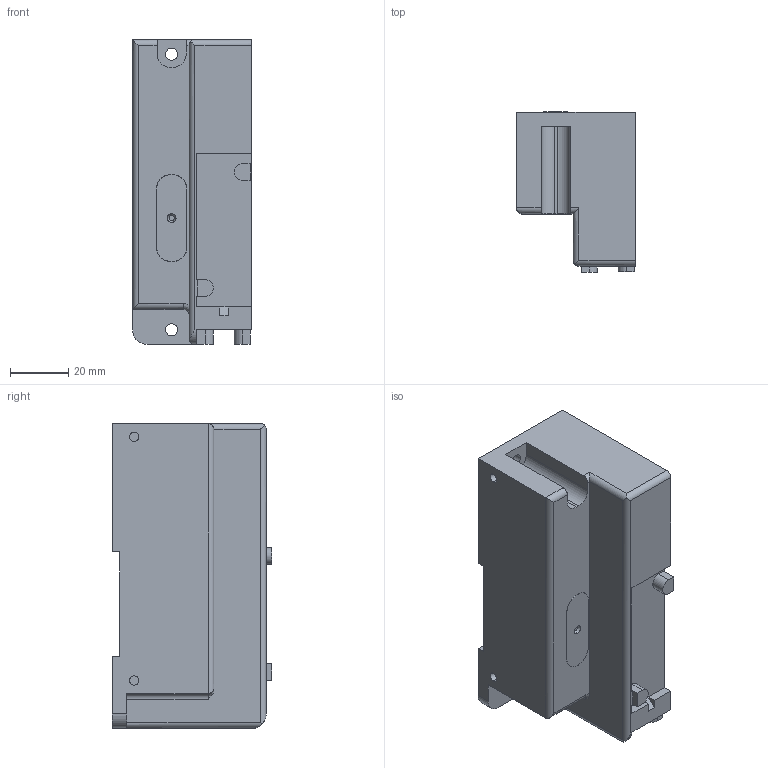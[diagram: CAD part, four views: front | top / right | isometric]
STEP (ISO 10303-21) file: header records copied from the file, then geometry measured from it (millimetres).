
FILE_DESCRIPTION( (''), '2;1');
FILE_NAME ('CVICAD02.5208.F15ZX-LK_21439.stp','2021-07-12T19:12:31',(''),(''),'spGate 12.6.6','','');
FILE_SCHEMA (('AUTOMOTIVE_DESIGN'));
Length unit declared in the file: millimetre
Products named in the file (3): Assembly; Y029261_キャップ(DINねじ穴用)_20190809; CVICAD02-prt1
Assembly tree (2 placements, depth 2):
  Assembly
    Y029261_キャップ(DINねじ穴用)_20190809
    CVICAD02-prt1
Bounding box: 41 x 55.1 x 105 mm (x, y, z)
Volume: 168917.5 mm3; surface area: 25577.3 mm2
Topology: 2 solids, 2 shells, 201 faces, 518 edges, 343 vertices
Faces by surface type: plane 141, cylinder 57, bspline 3
Entity records: 10378 total; most frequent: CARTESIAN_POINT 1163, ORIENTED_EDGE 1036, DIRECTION 1009, COLOUR_RGB 721, PRESENTATION_STYLE_ASSIGNMENT 721, STYLED_ITEM 721, EDGE_CURVE 518, DRAUGHTING_PRE_DEFINED_CURVE_FONT 518
